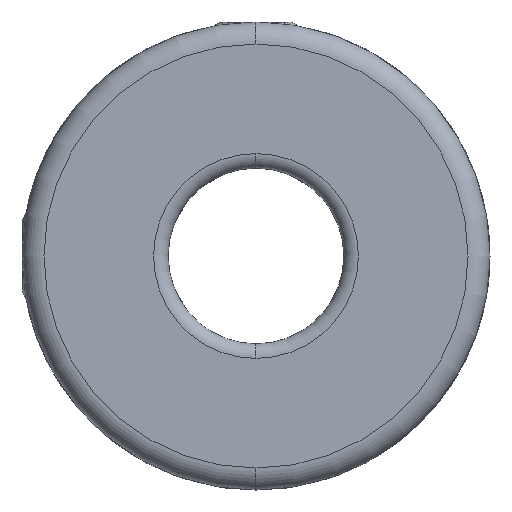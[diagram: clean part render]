
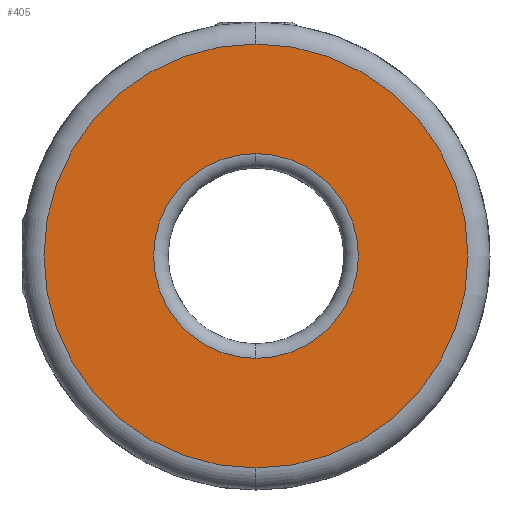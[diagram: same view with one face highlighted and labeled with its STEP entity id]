
A CAD part, left-side view. The second image highlights one B-rep face of the part: STEP entity #405.
In plain terms, the highlighted planar face has unit normal (-1, 0, 0).
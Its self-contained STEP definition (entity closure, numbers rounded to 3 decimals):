
#25 = CARTESIAN_POINT ( 'NONE',  ( 0., 0., -7.25 ) ) ;
#124 = CARTESIAN_POINT ( 'NONE',  ( 0., 0., 0. ) ) ;
#186 = DIRECTION ( 'NONE',  ( 0., 0., -1. ) ) ;
#245 = EDGE_CURVE ( 'NONE', #1438, #3192, #2537, .T. ) ;
#357 = CARTESIAN_POINT ( 'NONE',  ( 0., 0., 0. ) ) ;
#405 = ADVANCED_FACE ( 'NONE', ( #4319, #749 ), #1385, .F. ) ;
#470 = CIRCLE ( 'NONE', #3918, 7.25 ) ;
#533 = DIRECTION ( 'NONE',  ( 0., 0., -1. ) ) ;
#641 = ORIENTED_EDGE ( 'NONE', *, *, #3207, .T. ) ;
#727 = VERTEX_POINT ( 'NONE', #4785 ) ;
#749 = FACE_OUTER_BOUND ( 'NONE', #2208, .T. ) ;
#754 = DIRECTION ( 'NONE',  ( 0., 0., -1. ) ) ;
#762 = EDGE_LOOP ( 'NONE', ( #641, #2103 ) ) ;
#763 = AXIS2_PLACEMENT_3D ( 'NONE', #1931, #4681, #2331 ) ;
#806 = DIRECTION ( 'NONE',  ( -1., 0., 0. ) ) ;
#1096 = CIRCLE ( 'NONE', #3131, 3.5 ) ;
#1149 = CARTESIAN_POINT ( 'NONE',  ( 0., 0., 7.25 ) ) ;
#1385 = PLANE ( 'NONE',  #3398 ) ;
#1438 = VERTEX_POINT ( 'NONE', #25 ) ;
#1861 = CIRCLE ( 'NONE', #2871, 3.5 ) ;
#1896 = ORIENTED_EDGE ( 'NONE', *, *, #3276, .T. ) ;
#1931 = CARTESIAN_POINT ( 'NONE',  ( 0., 0., 0. ) ) ;
#2103 = ORIENTED_EDGE ( 'NONE', *, *, #2380, .T. ) ;
#2208 = EDGE_LOOP ( 'NONE', ( #4306, #1896 ) ) ;
#2331 = DIRECTION ( 'NONE',  ( 0., 0., -1. ) ) ;
#2380 = EDGE_CURVE ( 'NONE', #3527, #727, #1861, .T. ) ;
#2537 = CIRCLE ( 'NONE', #763, 7.25 ) ;
#2558 = DIRECTION ( 'NONE',  ( 1., 0., 0. ) ) ;
#2871 = AXIS2_PLACEMENT_3D ( 'NONE', #124, #2897, #533 ) ;
#2897 = DIRECTION ( 'NONE',  ( 1., 0., 0. ) ) ;
#3114 = DIRECTION ( 'NONE',  ( 1., 0., 0. ) ) ;
#3131 = AXIS2_PLACEMENT_3D ( 'NONE', #357, #3114, #754 ) ;
#3143 = CARTESIAN_POINT ( 'NONE',  ( 0., 0., 3.5 ) ) ;
#3166 = CARTESIAN_POINT ( 'NONE',  ( 0., 0., 0. ) ) ;
#3192 = VERTEX_POINT ( 'NONE', #1149 ) ;
#3207 = EDGE_CURVE ( 'NONE', #727, #3527, #1096, .T. ) ;
#3276 = EDGE_CURVE ( 'NONE', #3192, #1438, #470, .T. ) ;
#3398 = AXIS2_PLACEMENT_3D ( 'NONE', #4903, #2558, #186 ) ;
#3527 = VERTEX_POINT ( 'NONE', #3143 ) ;
#3568 = DIRECTION ( 'NONE',  ( 0., 0., -1. ) ) ;
#3918 = AXIS2_PLACEMENT_3D ( 'NONE', #3166, #806, #3568 ) ;
#4306 = ORIENTED_EDGE ( 'NONE', *, *, #245, .T. ) ;
#4319 = FACE_BOUND ( 'NONE', #762, .T. ) ;
#4681 = DIRECTION ( 'NONE',  ( -1., 0., 0. ) ) ;
#4785 = CARTESIAN_POINT ( 'NONE',  ( 0., 0., -3.5 ) ) ;
#4903 = CARTESIAN_POINT ( 'NONE',  ( 0., 0., 0. ) ) ;
